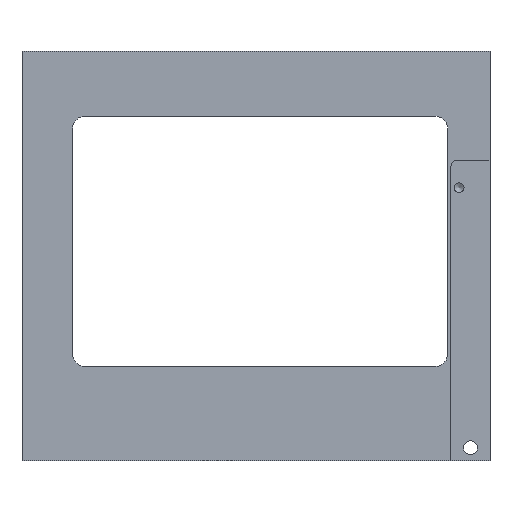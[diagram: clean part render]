
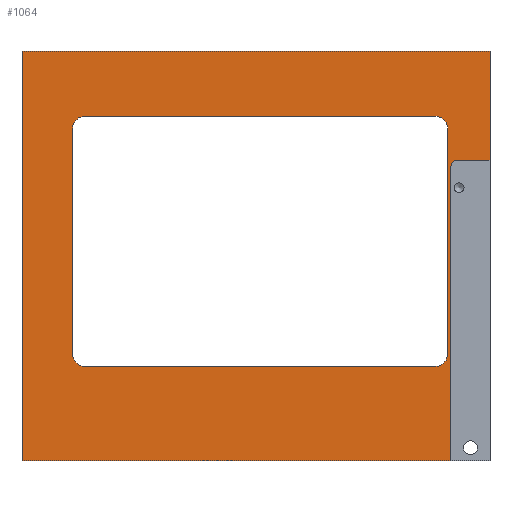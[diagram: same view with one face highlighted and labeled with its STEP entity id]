
A CAD part, front view. The second image highlights one B-rep face of the part: STEP entity #1064.
In plain terms, the highlighted planar face has unit normal (0, -1, 0).
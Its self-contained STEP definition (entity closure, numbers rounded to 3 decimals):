
#23=LINE('',#1623,#83);
#27=LINE('',#1638,#87);
#46=LINE('',#1698,#106);
#51=LINE('',#1724,#111);
#56=LINE('',#1733,#116);
#58=LINE('',#1788,#118);
#63=LINE('',#1804,#123);
#67=LINE('',#1816,#127);
#70=LINE('',#1827,#130);
#73=LINE('',#1836,#133);
#83=VECTOR('',#1301,144.);
#87=VECTOR('',#1315,126.);
#106=VECTOR('',#1374,90.5);
#111=VECTOR('',#1403,10.);
#116=VECTOR('',#1412,33.5);
#118=VECTOR('',#1488,132.);
#123=VECTOR('',#1503,107.5);
#127=VECTOR('',#1515,69.);
#130=VECTOR('',#1526,69.);
#133=VECTOR('',#1537,107.5);
#155=PLANE('',#1204);
#205=FACE_BOUND('',#435,.T.);
#311=FACE_OUTER_BOUND('',#434,.T.);
#434=EDGE_LOOP('',(#955,#956,#957,#958,#959,#960,#961));
#435=EDGE_LOOP('',(#962,#963,#964,#965,#966,#967,#968,#969));
#469=CIRCLE('',#1133,2.);
#493=CIRCLE('',#1189,4.);
#495=CIRCLE('',#1193,4.);
#497=CIRCLE('',#1197,4.);
#499=CIRCLE('',#1201,4.);
#526=VERTEX_POINT('',#1620);
#527=VERTEX_POINT('',#1622);
#533=VERTEX_POINT('',#1636);
#552=VERTEX_POINT('',#1691);
#553=VERTEX_POINT('',#1693);
#554=VERTEX_POINT('',#1697);
#563=VERTEX_POINT('',#1722);
#584=VERTEX_POINT('',#1794);
#585=VERTEX_POINT('',#1796);
#587=VERTEX_POINT('',#1802);
#589=VERTEX_POINT('',#1808);
#591=VERTEX_POINT('',#1814);
#594=VERTEX_POINT('',#1821);
#595=VERTEX_POINT('',#1823);
#597=VERTEX_POINT('',#1832);
#626=EDGE_CURVE('',#526,#527,#23,.T.);
#634=EDGE_CURVE('',#526,#533,#27,.T.);
#661=EDGE_CURVE('',#552,#553,#469,.T.);
#663=EDGE_CURVE('',#554,#553,#46,.T.);
#674=EDGE_CURVE('',#552,#563,#51,.T.);
#679=EDGE_CURVE('',#527,#563,#56,.T.);
#697=EDGE_CURVE('',#554,#533,#58,.T.);
#700=EDGE_CURVE('',#584,#585,#493,.T.);
#704=EDGE_CURVE('',#584,#587,#63,.T.);
#707=EDGE_CURVE('',#589,#587,#495,.T.);
#710=EDGE_CURVE('',#589,#591,#67,.T.);
#713=EDGE_CURVE('',#594,#595,#497,.T.);
#715=EDGE_CURVE('',#594,#585,#70,.T.);
#719=EDGE_CURVE('',#597,#591,#499,.T.);
#720=EDGE_CURVE('',#597,#595,#73,.T.);
#955=ORIENTED_EDGE('',*,*,#674,.T.);
#956=ORIENTED_EDGE('',*,*,#679,.F.);
#957=ORIENTED_EDGE('',*,*,#626,.F.);
#958=ORIENTED_EDGE('',*,*,#634,.T.);
#959=ORIENTED_EDGE('',*,*,#697,.F.);
#960=ORIENTED_EDGE('',*,*,#663,.T.);
#961=ORIENTED_EDGE('',*,*,#661,.F.);
#962=ORIENTED_EDGE('',*,*,#715,.T.);
#963=ORIENTED_EDGE('',*,*,#700,.F.);
#964=ORIENTED_EDGE('',*,*,#704,.T.);
#965=ORIENTED_EDGE('',*,*,#707,.F.);
#966=ORIENTED_EDGE('',*,*,#710,.T.);
#967=ORIENTED_EDGE('',*,*,#719,.F.);
#968=ORIENTED_EDGE('',*,*,#720,.T.);
#969=ORIENTED_EDGE('',*,*,#713,.F.);
#1064=ADVANCED_FACE('',(#311,#205),#155,.F.);
#1133=AXIS2_PLACEMENT_3D('',#1694,#1369,#1370);
#1189=AXIS2_PLACEMENT_3D('',#1797,#1496,#1497);
#1193=AXIS2_PLACEMENT_3D('',#1810,#1509,#1510);
#1197=AXIS2_PLACEMENT_3D('',#1824,#1521,#1522);
#1201=AXIS2_PLACEMENT_3D('',#1834,#1533,#1534);
#1204=AXIS2_PLACEMENT_3D('',#1839,#1541,#1542);
#1301=DIRECTION('',(1.,0.,0.));
#1315=DIRECTION('',(0.,0.,-1.));
#1369=DIRECTION('center_axis',(0.,-1.,0.));
#1370=DIRECTION('ref_axis',(-0.707,0.,0.707));
#1374=DIRECTION('',(0.,0.,1.));
#1403=DIRECTION('',(1.,0.,0.));
#1412=DIRECTION('',(0.,0.,-1.));
#1488=DIRECTION('',(-1.,0.,0.));
#1496=DIRECTION('center_axis',(0.,-1.,0.));
#1497=DIRECTION('ref_axis',(0.707,0.,-0.707));
#1503=DIRECTION('',(-1.,0.,0.));
#1509=DIRECTION('center_axis',(0.,-1.,0.));
#1510=DIRECTION('ref_axis',(-0.707,0.,-0.707));
#1515=DIRECTION('',(0.,0.,1.));
#1521=DIRECTION('center_axis',(0.,-1.,0.));
#1522=DIRECTION('ref_axis',(0.707,0.,0.707));
#1526=DIRECTION('',(0.,0.,-1.));
#1533=DIRECTION('center_axis',(0.,-1.,0.));
#1534=DIRECTION('ref_axis',(-0.707,0.,0.707));
#1537=DIRECTION('',(1.,0.,0.));
#1541=DIRECTION('center_axis',(0.,1.,0.));
#1542=DIRECTION('ref_axis',(0.,0.,1.));
#1620=CARTESIAN_POINT('',(-76.,0.,58.));
#1622=CARTESIAN_POINT('',(68.,0.,58.));
#1623=CARTESIAN_POINT('',(-68.,0.,58.));
#1636=CARTESIAN_POINT('',(-76.,0.,-68.));
#1638=CARTESIAN_POINT('',(-76.,0.,-58.));
#1691=CARTESIAN_POINT('',(58.,0.,24.5));
#1693=CARTESIAN_POINT('',(56.,0.,22.5));
#1694=CARTESIAN_POINT('Origin',(58.,0.,22.5));
#1697=CARTESIAN_POINT('',(56.,0.,-68.));
#1698=CARTESIAN_POINT('',(56.,0.,-24.844));
#1722=CARTESIAN_POINT('',(68.,0.,24.5));
#1724=CARTESIAN_POINT('',(37.156,0.,24.5));
#1733=CARTESIAN_POINT('',(68.,0.,58.));
#1788=CARTESIAN_POINT('',(-76.,0.,-68.));
#1794=CARTESIAN_POINT('',(51.,0.,-39.));
#1796=CARTESIAN_POINT('',(55.,0.,-35.));
#1797=CARTESIAN_POINT('Origin',(51.,0.,-35.));
#1802=CARTESIAN_POINT('',(-56.5,0.,-39.));
#1804=CARTESIAN_POINT('',(-21.094,0.,-39.));
#1808=CARTESIAN_POINT('',(-60.5,0.,-35.));
#1810=CARTESIAN_POINT('Origin',(-56.5,0.,-35.));
#1814=CARTESIAN_POINT('',(-60.5,0.,34.));
#1816=CARTESIAN_POINT('',(-60.5,0.,28.156));
#1821=CARTESIAN_POINT('',(55.,0.,34.));
#1823=CARTESIAN_POINT('',(51.,0.,38.));
#1824=CARTESIAN_POINT('Origin',(51.,0.,34.));
#1827=CARTESIAN_POINT('',(55.,0.,-10.344));
#1832=CARTESIAN_POINT('',(-56.5,0.,38.));
#1834=CARTESIAN_POINT('Origin',(-56.5,0.,34.));
#1836=CARTESIAN_POINT('',(36.656,0.,38.));
#1839=CARTESIAN_POINT('Origin',(18.312,0.,18.312));
